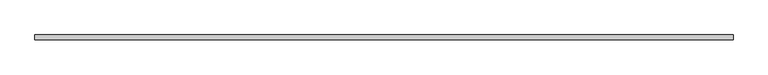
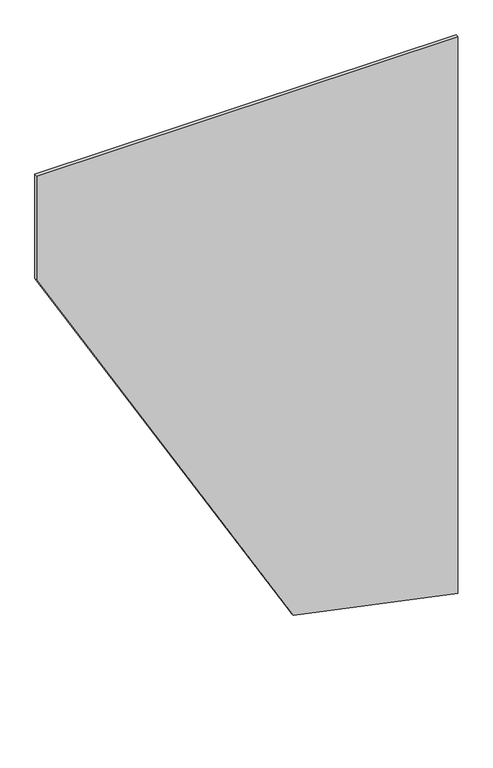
"""IFC4 building model written with IfcOpenShell, lengths in millimetres: plate geometry, 系統嵌板 : 玻璃 1.0cm."""

import ifcopenshell
import ifcopenshell.guid

model = None  # the IFC model being written
_history = None  # IfcOwnerHistory: only IFC2X3 demands one
_inside = {}  # id of a spatial element -> (the spatial element, [elements in it])
_under = {}  # id of a project, library or spatial element -> (it, [spatial elements below it])
_declared = {}  # id of a project -> (the project, [libraries it declares])
_typed = {}  # id of a type object -> (the type object, [elements of that type])
_made_of = {}  # id of a material, layer set ... -> (it, [elements and type objects made of it])


def new_model(schema):
    """Start an empty IFC model of exactly this schema.

    Asked for "IFC4X3", IfcOpenShell would pick the latest addendum, in which some entities
    have other attributes; the version numbers below select the first issue.
    IFC2X3 requires an IfcOwnerHistory on every rooted entity: one is made here for all.
    """
    global model, _history
    if schema == "IFC4X3":
        model = ifcopenshell.file(schema_version=(4, 3, 0, 0))
    else:
        model = ifcopenshell.file(schema=schema)
    _inside.clear()
    _under.clear()
    _declared.clear()
    _typed.clear()
    _made_of.clear()
    _history = None
    if model.schema == "IFC2X3":
        org = make("IfcOrganization", Name="unknown")
        user = make(
            "IfcPersonAndOrganization",
            ThePerson=make("IfcPerson", FamilyName="unknown"),
            TheOrganization=org,
        )
        app = make(
            "IfcApplication",
            ApplicationDeveloper=org,
            Version="unknown",
            ApplicationFullName="unknown",
            ApplicationIdentifier="unknown",
        )
        _history = make(
            "IfcOwnerHistory",
            OwningUser=user,
            OwningApplication=app,
            ChangeAction="ADDED",
            CreationDate=0,
        )
    return model


def make(cls, **values):
    """One entity of the class cls with the attributes given. An attribute that is None is left unset."""
    return model.create_entity(
        cls, **{name: value for name, value in values.items() if value is not None}
    )


def rooted(cls, **values):
    """An entity with a GlobalId (a new one), such as an element, a storey or a relation."""
    return make(cls, GlobalId=ifcopenshell.guid.new(), OwnerHistory=_history, **values)


def si_unit(unit_type, name, prefix=None):
    """IfcSIUnit, for example si_unit("LENGTHUNIT", "METRE", prefix="MILLI")."""
    return make("IfcSIUnit", UnitType=unit_type, Prefix=prefix, Name=name)


def assignment(units):
    """IfcUnitAssignment: the units of a project."""
    return None if units is None else make("IfcUnitAssignment", Units=units)


def point(xyz):
    """IfcCartesianPoint."""
    return None if xyz is None else make("IfcCartesianPoint", Coordinates=xyz)


def direction(xyz):
    """IfcDirection."""
    return None if xyz is None else make("IfcDirection", DirectionRatios=xyz)


def frame(location, z_axis=None, x_axis=None):
    """IfcAxis2Placement3D, a coordinate frame: its origin and axes. An axis left out is left unset."""
    return make(
        "IfcAxis2Placement3D",
        Location=point(location),
        Axis=direction(z_axis),
        RefDirection=direction(x_axis),
    )


def origin():
    """The frame at (0, 0, 0) with its axes left unset."""
    return frame((0.0, 0.0, 0.0))


def place(relative_to, where):
    """IfcLocalPlacement: puts the frame where relative to a parent placement (None: the world)."""
    return make(
        "IfcLocalPlacement", PlacementRelTo=relative_to, RelativePlacement=where
    )


def context(
    kind, dimensions, precision=None, world=None, true_north=None, identifier=None
):
    """IfcGeometricRepresentationContext, for example the 3D "Model" context."""
    return make(
        "IfcGeometricRepresentationContext",
        ContextIdentifier=identifier,
        ContextType=kind,
        CoordinateSpaceDimension=dimensions,
        Precision=precision,
        WorldCoordinateSystem=world,
        TrueNorth=true_north,
    )


def project(units=None, contexts=None):
    """IfcProject with its units and contexts."""
    return rooted(
        "IfcProject",
        Name="project",
        RepresentationContexts=contexts,
        UnitsInContext=assignment(units),
    )


def spatial(cls, under=None, at=None, **own):
    """A site, building, storey or space (cls), placed at a placement, below another one or the project."""
    s = rooted(cls, ObjectPlacement=at, **own)
    if under is not None:
        _under.setdefault(under.id(), (under, []))[1].append(s)
    return s


def polyline(points):
    """IfcPolyline through the points."""
    return make("IfcPolyline", Points=[point(p) for p in points])


def outline(outer, holes=None, kind="AREA"):
    """IfcArbitraryClosedProfileDef: a profile drawn as a closed curve; with holes, ...WithVoids."""
    if holes is None:
        return make("IfcArbitraryClosedProfileDef", ProfileType=kind, OuterCurve=outer)
    return make(
        "IfcArbitraryProfileDefWithVoids",
        ProfileType=kind,
        OuterCurve=outer,
        InnerCurves=holes,
    )


def extrude(swept, where, along, depth):
    """IfcExtrudedAreaSolid: the profile swept, set in the frame where, extruded along a direction by depth."""
    return make(
        "IfcExtrudedAreaSolid",
        SweptArea=swept,
        Position=where,
        ExtrudedDirection=direction(along),
        Depth=depth,
    )


def shape(context_of_items, identifier, shape_type, items):
    """IfcShapeRepresentation: the items that make up one representation, for example the "Body"."""
    return make(
        "IfcShapeRepresentation",
        ContextOfItems=context_of_items,
        RepresentationIdentifier=identifier,
        RepresentationType=shape_type,
        Items=items,
    )


def source(mapping_origin, context_of_items, identifier, shape_type, items):
    """IfcRepresentationMap: a shape defined once, which mapped items show again and again."""
    return make(
        "IfcRepresentationMap",
        MappingOrigin=mapping_origin,
        MappedRepresentation=shape(context_of_items, identifier, shape_type, items),
    )


def transform(
    local_origin,
    x_axis=None,
    y_axis=None,
    z_axis=None,
    scale=None,
    scale2=None,
    scale3=None,
    uniform=True,
):
    """IfcCartesianTransformationOperator3D, or its non-uniform kind. x_axis, y_axis, z_axis: its Axis1, 2, 3."""
    if uniform:
        return make(
            "IfcCartesianTransformationOperator3D",
            Axis1=direction(x_axis),
            Axis2=direction(y_axis),
            LocalOrigin=point(local_origin),
            Scale=scale,
            Axis3=direction(z_axis),
        )
    return make(
        "IfcCartesianTransformationOperator3DnonUniform",
        Axis1=direction(x_axis),
        Axis2=direction(y_axis),
        LocalOrigin=point(local_origin),
        Scale=scale,
        Axis3=direction(z_axis),
        Scale2=scale2,
        Scale3=scale3,
    )


def mapped(mapping_source, mapping_target):
    """IfcMappedItem: shows the shape of a source again, moved by a transform."""
    return make(
        "IfcMappedItem", MappingSource=mapping_source, MappingTarget=mapping_target
    )


def made_of(thing, what):
    """Note that an element or type object is made of a material, layer set ...; save() writes the relation."""
    if what is not None:
        _made_of.setdefault(what.id(), (what, []))[1].append(thing)
    return thing


def element(
    cls,
    number,
    at=None,
    inside=None,
    cuts=None,
    type_object=None,
    material=None,
    context=None,
    identifier="Body",
    shape_type=None,
    held_by="IfcProductDefinitionShape",
    body=None,
    shapes=None,
    **own,
):
    """One element of the class cls, such as IfcWall. Its Tag is "e" and its number.

    at: its placement. inside: the storey or other place that contains it. cuts: it is an
    opening in that element (IfcRelVoidsElement). A single representation is given by context,
    identifier, shape_type and body (its items); several are given by shapes. held_by: the class
    of the entity that holds the representations. save() writes the other relations.
    """
    e = rooted(cls, Tag="e%d" % number, ObjectPlacement=at, **own)
    if body is not None:
        shapes = [shape(context, identifier, shape_type, body)]
    if shapes is not None:
        e.Representation = make(held_by, Representations=shapes)
    if inside is not None:
        _inside.setdefault(inside.id(), (inside, []))[1].append(e)
    if cuts is not None:
        rooted(
            "IfcRelVoidsElement", RelatingBuildingElement=cuts, RelatedOpeningElement=e
        )
    if type_object is not None:
        _typed.setdefault(type_object.id(), (type_object, []))[1].append(e)
    return made_of(e, material)


def aggregate(whole, parts):
    """IfcRelAggregates: a whole, such as a stair, and the parts it consists of."""
    return rooted("IfcRelAggregates", RelatingObject=whole, RelatedObjects=parts)


def save(model, path):
    """Write the relations noted so far, then the file.

    IfcRelAggregates (storeys below a building ...), IfcRelContainedInSpatialStructure (elements
    in a storey), IfcRelDefinesByType, IfcRelAssociatesMaterial and IfcRelDeclares: one each for
    every whole, place, type object, material and project.
    """
    for whole, parts in _under.values():
        aggregate(whole, parts)
    for where, things in _inside.values():
        rooted(
            "IfcRelContainedInSpatialStructure",
            RelatedElements=things,
            RelatingStructure=where,
        )
    for kind, things in _typed.values():
        rooted("IfcRelDefinesByType", RelatedObjects=things, RelatingType=kind)
    for what, things in _made_of.values():
        rooted("IfcRelAssociatesMaterial", RelatedObjects=things, RelatingMaterial=what)
    for by, libraries in _declared.values():
        rooted("IfcRelDeclares", RelatingContext=by, RelatedDefinitions=libraries)
    model.write(path)


def plate_3853efec(model_context):
    return source(origin(), model_context, "Body", "SweptSolid", [
        extrude(outline(polyline([(121.0896139, 164.2423745), (0.0, 750.0), (2096.9087024, 750.0), (2096.9087024, -750.0), (1704.603857, -750.0), (121.0896139, 164.2423745)])), frame((0.0, -5.0, 0.0), z_axis=(0.0, 1.0, 0.0), x_axis=(0.0, 0.0, 1.0)), (0.0, 0.0, 1.0), 10.0),
    ])


if __name__ == "__main__":
    model = new_model("IFC4")
    model_context = context("Model", 3, world=origin())
    ifc_project = project(units=[si_unit("LENGTHUNIT", "METRE", prefix="MILLI")], contexts=[model_context])
    site = spatial("IfcSite", under=ifc_project)
    building = spatial("IfcBuilding", under=site)
    placement = place(None, origin())
    plate_shape = plate_3853efec(model_context)
    element("IfcPlate", 1, ObjectType="系統嵌板 : 玻璃 1.0cm", at=placement, inside=building, context=model_context, shape_type="MappedRepresentation", body=[
        mapped(plate_shape, transform((0.0, 0.0, 0.0), x_axis=(1.0, 0.0, 0.0), y_axis=(0.0, 1.0, 0.0), z_axis=(0.0, 0.0, 1.0))),
    ])
    save(model, "model.ifc")
